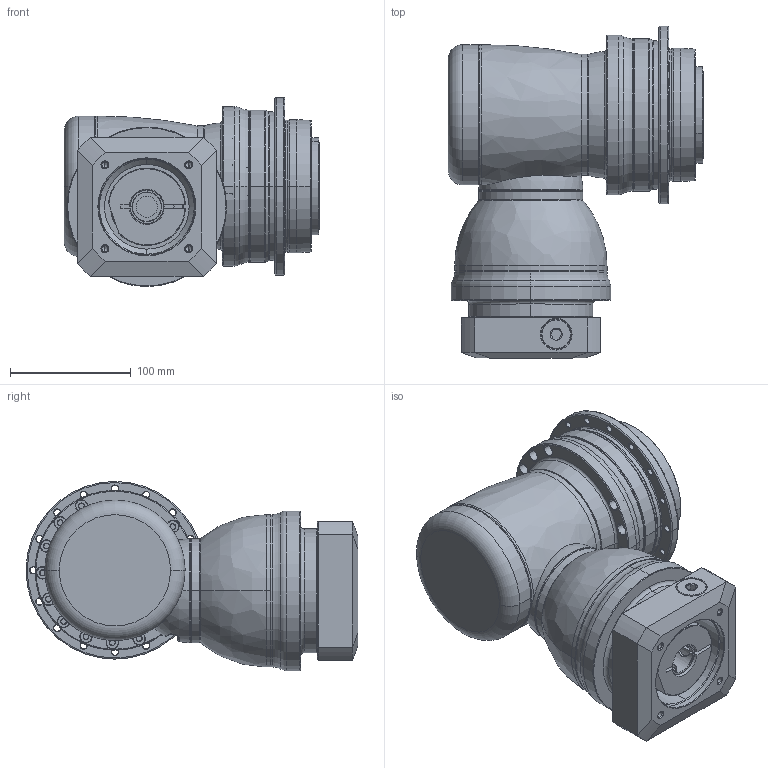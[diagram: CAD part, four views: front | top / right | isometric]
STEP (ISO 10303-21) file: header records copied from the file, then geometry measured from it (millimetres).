
FILE_DESCRIPTION((''),'2;1');
FILE_NAME('AHK110_2ST_24-P0409500101_ASM','2016-09-23T',('d01943'),(''),'PRO/ENGINEER BY PARAMETRIC TECHNOLOGY CORPORATION, 2008410','PRO/ENGINEER BY PARAMETRIC TECHNOLOGY CORPORATION, 2008410','');
FILE_SCHEMA(('CONFIG_CONTROL_DESIGN'));
Length unit declared in the file: millimetre
Products named in the file (12): P1008400002; P1802400011; P0278400003; P0359400003; P1315400001; P1007400001; P1318400101; P0503500010; P0912401201; P0409500101; 21711418017; AHK110_2ST_24-P0409500101_ASM
Assembly tree (11 placements, depth 2):
  AHK110_2ST_24-P0409500101_ASM
    P1008400002
    P1802400011
    P0278400003
    P0359400003
    P1315400001
    P1007400001
    P1318400101
    P0503500010
    P0912401201
    P0409500101
    21711418017
Bounding box: 211.3 x 274.5 x 156.5 mm (x, y, z)
Volume: 2717149.1 mm3; surface area: 429991.8 mm2
Topology: 12 solids, 12 shells, 1029 faces, 2282 edges, 1323 vertices
Faces by surface type: cylinder 372, cone 346, plane 147, torus 122, bspline 40, sphere 2
Entity records: 34364 total; most frequent: CARTESIAN_POINT 11060, DIRECTION 5354, ORIENTED_EDGE 4424, AXIS2_PLACEMENT_3D 2283, EDGE_CURVE 2212, VERTEX_POINT 1323, CIRCLE 1271, EDGE_LOOP 1223
